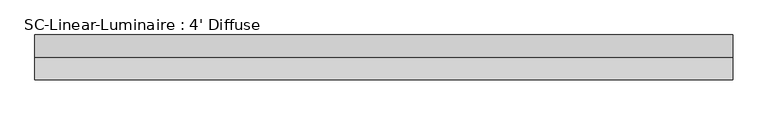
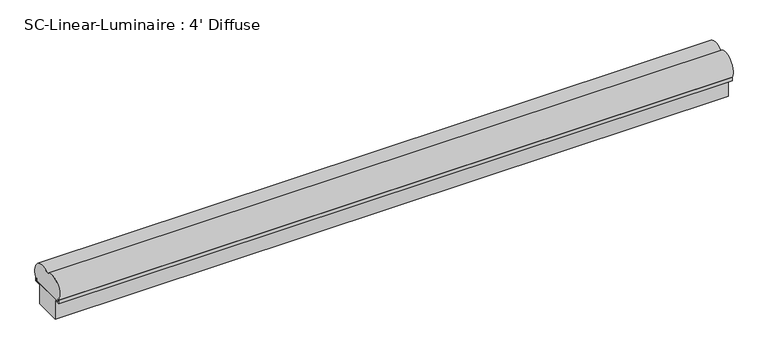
"""IFC4 building model written with IfcOpenShell, lengths in millimetres: light fixture geometry, SC-Linear-Luminaire : 4' Diffuse."""

from ifc_helpers import new_model, si_unit, point, frame, frame_2d, origin, place, context, project, spatial, polyline, circle_curve, trimmed, segment, composite_curve, outline, extrude, source, transform, mapped, element, save


def sc_linear_luminaire_4_diffuse_23ad9b4f(model_context):
    return source(origin(), model_context, "Body", "SweptSolid", [
        extrude(outline(composite_curve([segment(polyline([(-29.845, 66.5757209), (-32.8454104, 66.5757209)]), True, "CONTINUOUS"), segment(trimmed(circle_curve(frame_2d((-14.3558875, 77.5765226)), 21.5146484), [point((-32.8454104, 66.5757209))], [point((0.0, 93.601147))], False, "CARTESIAN"), True, "CONTINUOUS"), segment(trimmed(circle_curve(frame_2d((14.3558875, 77.5765226)), 21.5146484), [point((0.0, 93.601147))], [point((32.8454104, 66.5757209))], False, "CARTESIAN"), True, "CONTINUOUS"), segment(polyline([(32.8454104, 66.5757209), (29.845, 66.5757209), (29.845, 62.6426128), (-29.845, 62.6426128), (-29.845, 66.5757209)]), True, "CONTINUOUS")], self_intersect=False)), frame((-558.8, 0.0, 0.0), z_axis=(1.0, 0.0, 0.0), x_axis=(0.0, 1.0, 0.0)), (0.0, 0.0, 1.0), 1117.6),
        extrude(outline(polyline([(33.02, 66.5757209), (33.02, 60.325), (22.225, 60.325), (22.225, 26.45), (-22.225, 26.45), (-22.225, 60.325), (-33.02, 60.325), (-33.02, 66.5757209), (-29.845, 66.5757209), (-29.845, 62.6426128), (29.845, 62.6426128), (29.845, 66.5757209), (33.02, 66.5757209)])), frame((-558.8, 0.0, 0.0), z_axis=(1.0, 0.0, 0.0), x_axis=(0.0, 1.0, 0.0)), (0.0, 0.0, 1.0), 1117.6),
    ])


if __name__ == "__main__":
    model = new_model("IFC4")
    model_context = context("Model", 3, world=origin())
    ifc_project = project(units=[si_unit("LENGTHUNIT", "METRE", prefix="MILLI")], contexts=[model_context])
    site = spatial("IfcSite", under=ifc_project)
    building = spatial("IfcBuilding", under=site)
    placement = place(None, origin())
    sc_linear_luminaire_4_diffuse_shape = sc_linear_luminaire_4_diffuse_23ad9b4f(model_context)
    element("IfcLightFixture", 1, ObjectType="SC-Linear-Luminaire : 4' Diffuse", at=placement, inside=building, context=model_context, shape_type="MappedRepresentation", body=[
        mapped(sc_linear_luminaire_4_diffuse_shape, transform((0.0, 0.0, 0.0), x_axis=(1.0, 0.0, 0.0), y_axis=(0.0, 1.0, 0.0), z_axis=(0.0, 0.0, 1.0))),
    ])
    save(model, "model.ifc")
